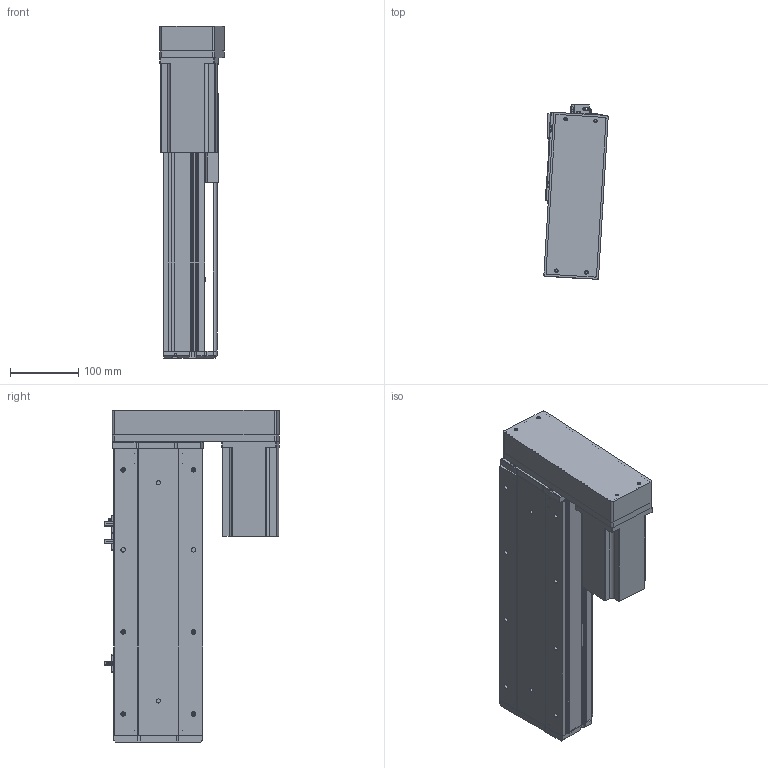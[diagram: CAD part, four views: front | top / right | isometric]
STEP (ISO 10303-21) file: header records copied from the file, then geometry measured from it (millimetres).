
FILE_DESCRIPTION (( 'STEP AP214' ), '1' );
FILE_NAME ('KSD130-P2010-S200-MR-CM.STEP', '2019-09-17T07:23:52', ( '微软用户' ), ( '微软中国' ), 'SwSTEP 2.0', 'SolidWorks 2014', '' );
FILE_SCHEMA (( 'AUTOMOTIVE_DESIGN' ));
Length unit declared in the file: millimetre
Products named in the file (11): 130宽模组保护罩左右折; 台达ECMA－C20807AS伺服电机; 130宽模组马达安装板连板左右折丝杆; U倰嫖萇EEㄜSX672; 覜茼え100遵圉猾敕; 130宽盖板半封闭丝杠-200行程; 130宽滚珠丝杆安装板半封闭-20丝杠; 130宽马达安装板半封闭; 130遵傷裔圉猾敕; 130宽底板半封闭丝杠-200行程; KSD130-P2010-S200-MR-CM
Assembly tree (12 placements, depth 2):
  KSD130-P2010-S200-MR-CM
    130宽底板半封闭丝杠-200行程
    130遵傷裔圉猾敕
    130宽马达安装板半封闭
    130宽滚珠丝杆安装板半封闭-20丝杠
    130宽盖板半封闭丝杠-200行程
    覜茼え100遵圉猾敕
    U倰嫖萇EEㄜSX672  x3
    130宽模组马达安装板连板左右折丝杆
    台达ECMA－C20807AS伺服电机
    130宽模组保护罩左右折
Bounding box: 94.05 x 255.73 x 485.5 mm (x, y, z)
Volume: 2648419.9 mm3; surface area: 665921.8 mm2
Topology: 13 solids, 13 shells, 1198 faces, 3339 edges, 2145 vertices
Faces by surface type: cylinder 545, plane 542, cone 111
Entity records: 37506 total; most frequent: CARTESIAN_POINT 6694, DIRECTION 5637, ORIENTED_EDGE 5422, EDGE_CURVE 2711, AXIS2_PLACEMENT_3D 2016, VERTEX_POINT 1769, VECTOR 1605, LINE 1605
